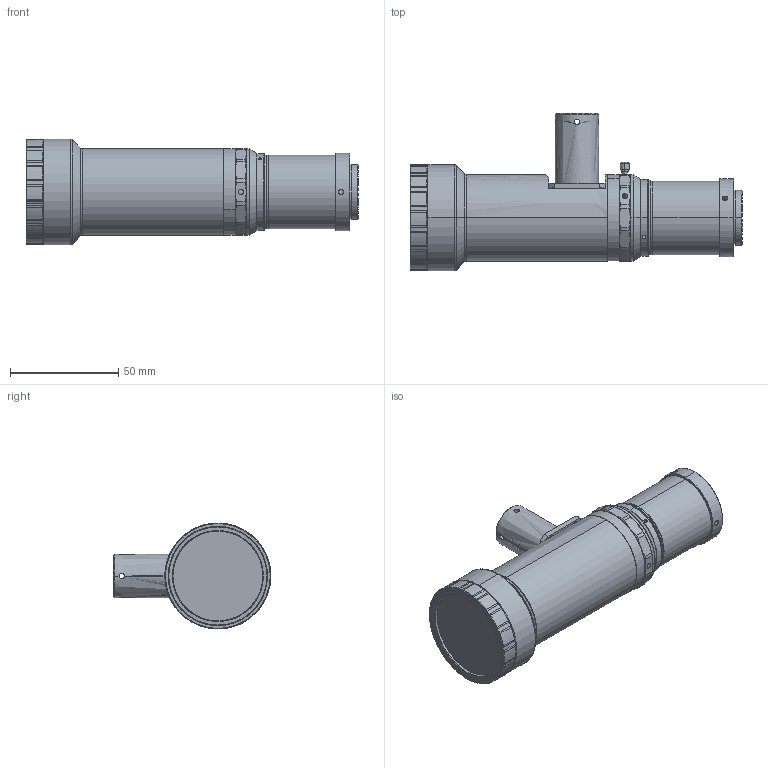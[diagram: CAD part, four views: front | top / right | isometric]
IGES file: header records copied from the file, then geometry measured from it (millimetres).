
Start section: SolidWorks IGES file using analytic representation for surfaces
Global section: file name: C:\Users\gc\Desktop\未完成工作堆放区\DTCA小倍率\DTCA121-20\发客户3D\DTCA121-20C.IGS,15HSolidWorks; native system: 2017; preprocessor: SolidWorks 2017; author: gc; date: 240111.153546; units: millimetre
Bounding box: 153.54 x 72.9 x 49 mm (x, y, z)
Surface area: 35135.3 mm2 (no closed solid volume)
Topology: 0 solids, 0 shells, 508 faces, 7723 edges, 7713 vertices
Faces by surface type: revolution 383, bspline 125
